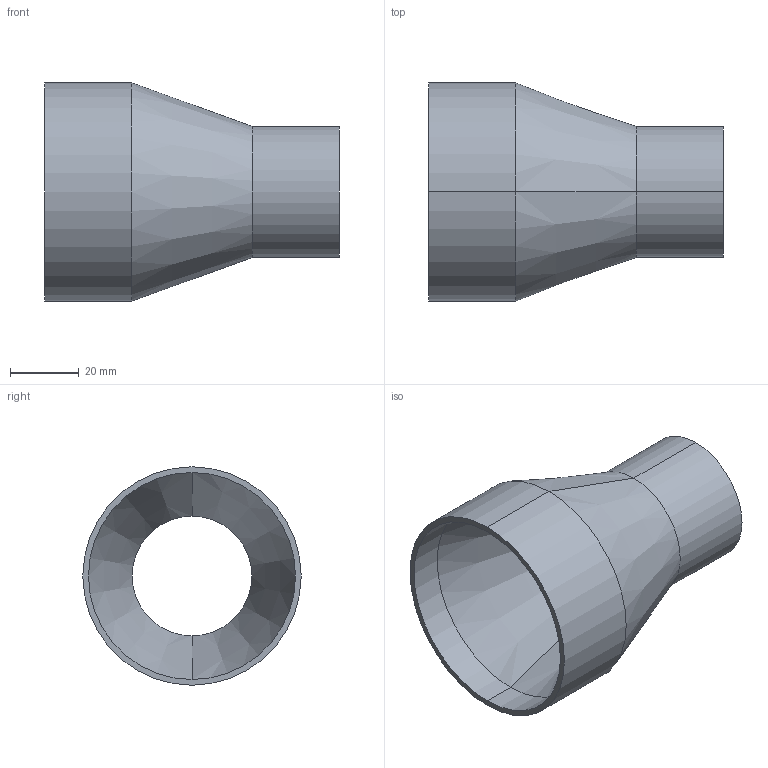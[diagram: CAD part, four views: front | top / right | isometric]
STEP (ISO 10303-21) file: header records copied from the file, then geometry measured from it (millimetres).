
FILE_DESCRIPTION (( 'STEP AP214' ), '1' );
FILE_NAME ('TE31SWW6L2.5x1.5-...STEP', '2016-05-29T09:45:12', ( 'eran' ), ( '' ), 'SwSTEP 2.0', 'SolidWorks 2016', '' );
FILE_SCHEMA (( 'AUTOMOTIVE_DESIGN' ));
Length unit declared in the file: millimetre
Products named in the file (1): TE31SWW6L2.5x1.5-..
Bounding box: 85.72 x 63.5 x 63.5 mm (x, y, z)
Volume: 50825.9 mm3; surface area: 26447 mm2
Topology: 1 solids, 1 shells, 14 faces, 28 edges, 16 vertices
Faces by surface type: cylinder 8, cone 4, plane 2
Entity records: 402 total; most frequent: DIRECTION 74, CARTESIAN_POINT 59, ORIENTED_EDGE 56, AXIS2_PLACEMENT_3D 31, EDGE_CURVE 28, EDGE_LOOP 16, VERTEX_POINT 16, CIRCLE 16
